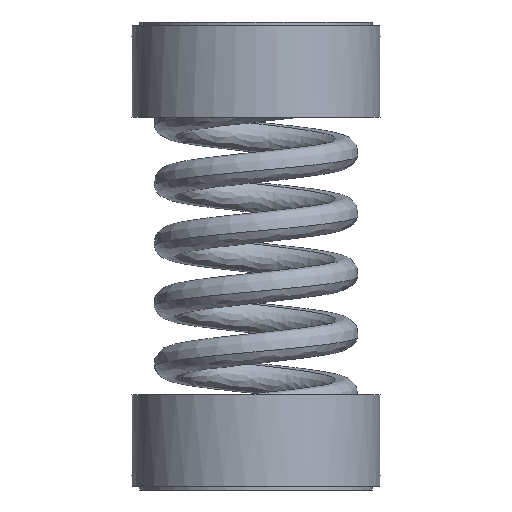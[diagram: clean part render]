
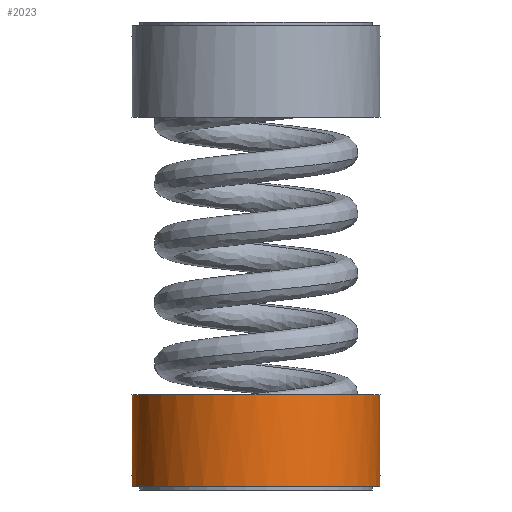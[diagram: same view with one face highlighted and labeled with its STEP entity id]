
A CAD part, left-side view. The second image highlights one B-rep face of the part: STEP entity #2023.
In plain terms, the highlighted cylindrical face has radius 26.988 mm (diameter 53.975 mm), a full revolution.
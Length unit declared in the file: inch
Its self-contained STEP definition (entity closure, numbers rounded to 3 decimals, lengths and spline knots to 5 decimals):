
#52=FACE_BOUND('',#351,.T.);
#228=FACE_OUTER_BOUND('',#350,.T.);
#350=EDGE_LOOP('',(#1565,#1566,#1567,#1568,#1569,#1570,#1571,#1572));
#351=EDGE_LOOP('',(#1573));
#456=LINE('',#12474,#598);
#480=LINE('',#12523,#622);
#484=LINE('',#12532,#626);
#509=LINE('',#12588,#651);
#598=VECTOR('',#2343,0.09375);
#622=VECTOR('',#2369,0.09375);
#626=VECTOR('',#2375,0.09375);
#651=VECTOR('',#2414,0.09375);
#719=CIRCLE('',#2114,1.0625);
#721=CIRCLE('',#2117,1.0625);
#737=CIRCLE('',#2147,1.0625);
#740=CIRCLE('',#2153,1.0625);
#741=CIRCLE('',#2155,1.0625);
#856=VERTEX_POINT('',#12471);
#857=VERTEX_POINT('',#12473);
#880=VERTEX_POINT('',#12520);
#881=VERTEX_POINT('',#12522);
#884=VERTEX_POINT('',#12529);
#885=VERTEX_POINT('',#12531);
#897=VERTEX_POINT('',#12560);
#909=VERTEX_POINT('',#12586);
#913=VERTEX_POINT('',#12626);
#1076=EDGE_CURVE('',#857,#856,#456,.T.);
#1100=EDGE_CURVE('',#881,#880,#480,.T.);
#1104=EDGE_CURVE('',#885,#884,#484,.T.);
#1117=EDGE_CURVE('',#856,#881,#719,.T.);
#1120=EDGE_CURVE('',#884,#897,#721,.T.);
#1133=EDGE_CURVE('',#897,#909,#509,.T.);
#1149=EDGE_CURVE('',#885,#880,#737,.T.);
#1152=EDGE_CURVE('',#913,#913,#740,.T.);
#1153=EDGE_CURVE('',#857,#909,#741,.T.);
#1565=ORIENTED_EDGE('',*,*,#1133,.T.);
#1566=ORIENTED_EDGE('',*,*,#1153,.F.);
#1567=ORIENTED_EDGE('',*,*,#1076,.T.);
#1568=ORIENTED_EDGE('',*,*,#1117,.T.);
#1569=ORIENTED_EDGE('',*,*,#1100,.T.);
#1570=ORIENTED_EDGE('',*,*,#1149,.F.);
#1571=ORIENTED_EDGE('',*,*,#1104,.T.);
#1572=ORIENTED_EDGE('',*,*,#1120,.T.);
#1573=ORIENTED_EDGE('',*,*,#1152,.T.);
#1826=CYLINDRICAL_SURFACE('',#2154,1.0625);
#2023=ADVANCED_FACE('',(#228,#52),#1826,.T.);
#2114=AXIS2_PLACEMENT_3D('',#12556,#2391,#2392);
#2117=AXIS2_PLACEMENT_3D('',#12562,#2398,#2399);
#2147=AXIS2_PLACEMENT_3D('',#12618,#2471,#2472);
#2153=AXIS2_PLACEMENT_3D('',#12627,#2483,#2484);
#2154=AXIS2_PLACEMENT_3D('',#12628,#2485,#2486);
#2155=AXIS2_PLACEMENT_3D('',#12629,#2487,#2488);
#2343=DIRECTION('',(0.,0.,1.));
#2369=DIRECTION('',(0.,0.,-1.));
#2375=DIRECTION('',(0.,0.,1.));
#2391=DIRECTION('center_axis',(0.,0.,
1.));
#2392=DIRECTION('ref_axis',(1.,0.,0.));
#2398=DIRECTION('center_axis',(0.,0.,
1.));
#2399=DIRECTION('ref_axis',(1.,0.,0.));
#2414=DIRECTION('',(0.,0.,-1.));
#2471=DIRECTION('center_axis',(0.,0.,
-1.));
#2472=DIRECTION('ref_axis',(1.,0.,0.));
#2483=DIRECTION('center_axis',(0.,0.,
-1.));
#2484=DIRECTION('ref_axis',(1.,0.,0.));
#2485=DIRECTION('center_axis',(0.,0.,
-1.));
#2486=DIRECTION('ref_axis',(1.,0.,0.));
#2487=DIRECTION('center_axis',(0.,0.,
-1.));
#2488=DIRECTION('ref_axis',(1.,0.,0.));
#12471=CARTESIAN_POINT('',(0.09375,1.05836,0.125));
#12473=CARTESIAN_POINT('',(0.09375,1.05836,0.03125));
#12474=CARTESIAN_POINT('',(0.09375,1.05836,0.42188));
#12520=CARTESIAN_POINT('',(-0.09375,1.05836,0.03125));
#12522=CARTESIAN_POINT('',(-0.09375,1.05836,0.125));
#12523=CARTESIAN_POINT('',(-0.09375,1.05836,0.42188));
#12529=CARTESIAN_POINT('',(-0.09375,-1.05836,0.125));
#12531=CARTESIAN_POINT('',(-0.09375,-1.05836,0.03125));
#12532=CARTESIAN_POINT('',(-0.09375,-1.05836,0.42188));
#12556=CARTESIAN_POINT('Origin',(0.,0.,
0.125));
#12560=CARTESIAN_POINT('',(0.09375,-1.05836,0.125));
#12562=CARTESIAN_POINT('Origin',(0.,0.,
0.125));
#12586=CARTESIAN_POINT('',(0.09375,-1.05836,0.03125));
#12588=CARTESIAN_POINT('',(0.09375,-1.05836,0.42188));
#12618=CARTESIAN_POINT('Origin',(0.,0.,
0.03125));
#12626=CARTESIAN_POINT('',(1.0625,0.,0.8125));
#12627=CARTESIAN_POINT('Origin',(0.,0.,
0.8125));
#12628=CARTESIAN_POINT('Origin',(0.,0.,
0.42188));
#12629=CARTESIAN_POINT('Origin',(0.,0.,
0.03125));
